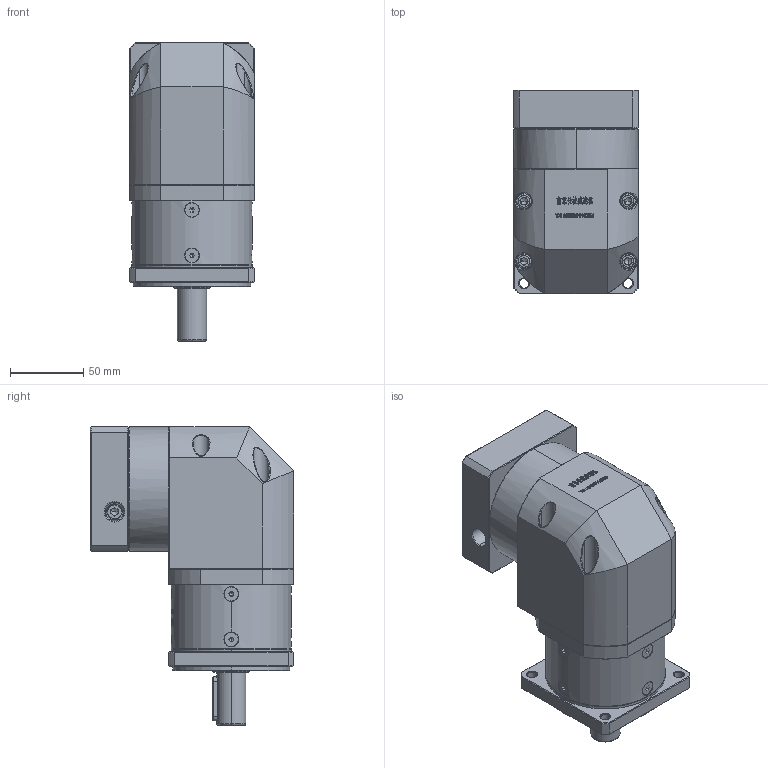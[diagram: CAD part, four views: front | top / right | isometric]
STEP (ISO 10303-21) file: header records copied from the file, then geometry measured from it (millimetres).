
FILE_DESCRIPTION (( 'STEP AP214' ), '1' );
FILE_NAME ('ZFR80-D20-L1-19-80-100-M6.step', '2022-05-08T12:05:27', ( '' ), ( 'Microsoft' ), 'SwSTEP 2.0', 'SolidWorks 2016', '' );
FILE_SCHEMA (( 'AUTOMOTIVE_DESIGN' ));
Length unit declared in the file: millimetre
Products named in the file (1): ZFR80-D20-L1-19-80-100-M6
Bounding box: 85 x 138.6 x 203.5 mm (x, y, z)
Volume: 1257782.4 mm3; surface area: 135997.9 mm2
Topology: 13 solids, 13 shells, 3061 faces, 8045 edges, 5134 vertices
Faces by surface type: plane 1617, bspline 624, cylinder 441, cone 365, torus 14
Entity records: 165068 total; most frequent: CARTESIAN_POINT 61583, ORIENTED_EDGE 15998, DIRECTION 12048, EDGE_CURVE 7999, VERTEX_POINT 5134, VECTOR 4970, LINE 4970, AXIS2_PLACEMENT_3D 3539
